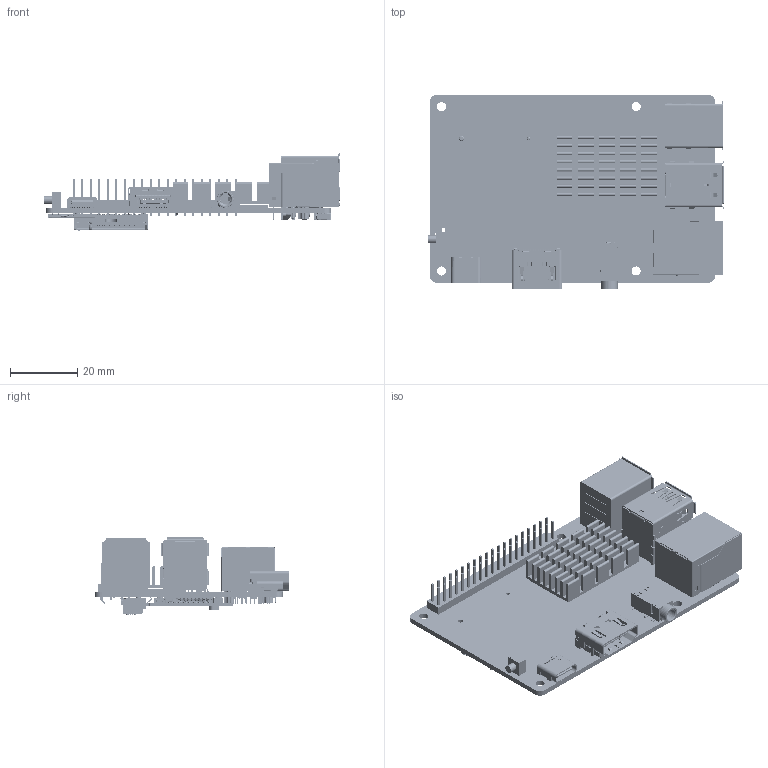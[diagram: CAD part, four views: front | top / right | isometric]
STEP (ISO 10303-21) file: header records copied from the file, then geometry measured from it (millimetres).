
FILE_DESCRIPTION((''),'2;1');
FILE_NAME('PCB-ASSY-3B_ASM','2023-09-19T21:31:02',('orangepi'),(''),'CREO PARAMETRIC BY PTC INC, 2022073','CREO PARAMETRIC BY PTC INC, 2022073','');
FILE_SCHEMA(('CONFIG_CONTROL_DESIGN'));
Products named in the file (23): PCB-OPI3PLUS-3B; RJ45; HDMI; 1_1_0001; 1_3_0001; 1_2_0001; PJ35A108-F05S1BR-B_ASM; PJ35A108-B_000_ASM; 40PIN_CONN; USB3-USB2-DOUBLE; USB2-0-DOUBLE; 03_11_05_0010_USB_0001; SWITCH; FPCLT1015-H56_1_0K0001; M2-67P-M_KEY5_42H_1; WIFI_5_1; WIFI_5_ASM; SSD_ASM_1_ASM; JYS-TF128-054; 03_11_01_0010_QX-AFC11-S30ICH-0; RADIATOR; CSTM-0675-111M; PCB-ASSY-3B_ASM
Assembly tree (23 placements, depth 4):
  PCB-ASSY-3B_ASM
    PCB-OPI3PLUS-3B
    RJ45
    HDMI
    PJ35A108-B_000_ASM
      PJ35A108-F05S1BR-B_ASM
        1_1_0001
        1_3_0001
        1_2_0001
    40PIN_CONN
    USB3-USB2-DOUBLE
    USB2-0-DOUBLE
    03_11_05_0010_USB_0001
    SWITCH
    FPCLT1015-H56_1_0K0001  x2
    SSD_ASM_1_ASM
      M2-67P-M_KEY5_42H_1
      WIFI_5_ASM
        WIFI_5_1
    JYS-TF128-054
    03_11_01_0010_QX-AFC11-S30ICH-0
    RADIATOR
    CSTM-0675-111M
Bounding box: 88.14 x 57.93 x 22.97 mm (x, y, z)
Volume: 19573 mm3; surface area: 45222.7 mm2
Topology: 21 solids, 23 shells, 14149 faces, 40606 edges, 26729 vertices
Faces by surface type: plane 10333, cylinder 3464, extrusion 129, bspline 125, torus 39, cone 30, sphere 29
Entity records: 475817 total; most frequent: CARTESIAN_POINT 99624, ORIENTED_EDGE 81184, DIRECTION 74762, EDGE_CURVE 40592, VECTOR 32172, LINE 32043, VERTEX_POINT 26729, AXIS2_PLACEMENT_3D 21295
